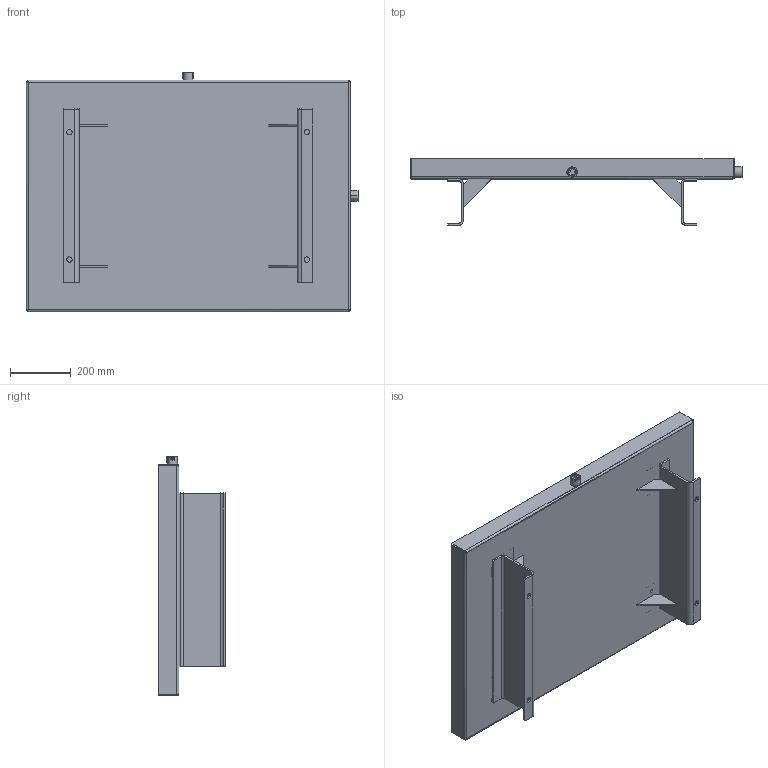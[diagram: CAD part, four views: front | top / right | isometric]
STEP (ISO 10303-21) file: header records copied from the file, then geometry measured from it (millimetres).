
FILE_DESCRIPTION (( 'STEP AP203' ), '1' );
FILE_NAME ('RJDPR020.STEP', '2015-01-08T15:49:10', ( '' ), ( '' ), 'SwSTEP 2.0', 'SolidWorks 2014', '' );
FILE_SCHEMA (( 'CONFIG_CONTROL_DESIGN' ));
Length unit declared in the file: inch
Products named in the file (1): RJDPR020
Bounding box: 1092.2 x 219.07 x 787.4 mm (x, y, z)
Volume: 5480238.1 mm3; surface area: 2794357.1 mm2
Topology: 15 solids, 15 shells, 330 faces, 704 edges, 408 vertices
Faces by surface type: plane 130, cone 128, cylinder 64, bspline 8
Entity records: 9363 total; most frequent: CARTESIAN_POINT 2059, DIRECTION 1582, ORIENTED_EDGE 1408, EDGE_CURVE 704, AXIS2_PLACEMENT_3D 571, LINE 440, VECTOR 440, VERTEX_POINT 408
